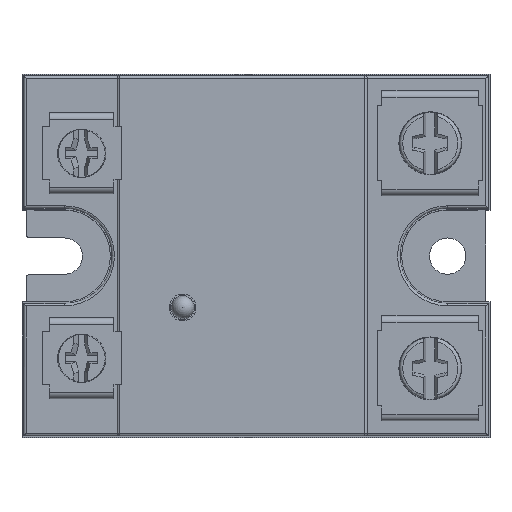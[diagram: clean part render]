
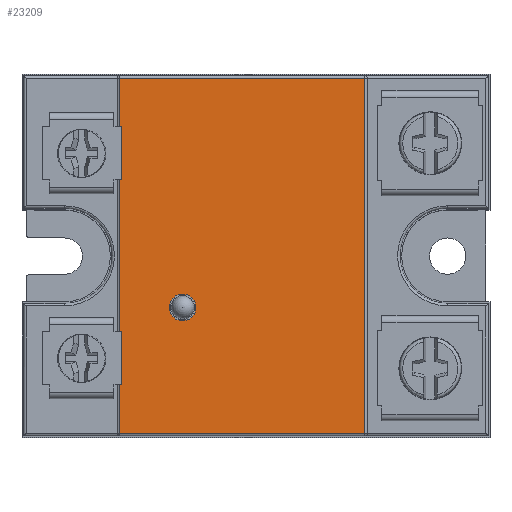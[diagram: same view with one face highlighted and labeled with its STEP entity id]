
A CAD part, top view. The second image highlights one B-rep face of the part: STEP entity #23209.
In plain terms, the highlighted planar face has unit normal (0, 0, 1).
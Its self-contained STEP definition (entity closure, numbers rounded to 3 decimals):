
#22887 = CYLINDRICAL_SURFACE('',#22888,0.3);
#22888 = AXIS2_PLACEMENT_3D('',#22889,#22890,#22891);
#22889 = CARTESIAN_POINT('',(-1.346,-2.955,22.5));
#22890 = DIRECTION('',(1.,0.,0.));
#22891 = DIRECTION('',(0.,0.,1.));
#22968 = CYLINDRICAL_SURFACE('',#22969,1.65);
#22969 = AXIS2_PLACEMENT_3D('',#22970,#22971,#22972);
#22970 = CARTESIAN_POINT('',(13.304,-31.355,20.));
#22971 = DIRECTION('',(0.,0.,1.));
#22972 = DIRECTION('',(-1.,0.,0.));
#22993 = VERTEX_POINT('',#22994);
#22994 = CARTESIAN_POINT('',(11.654,-31.355,22.8));
#23014 = EDGE_CURVE('',#22993,#23015,#23017,.T.);
#23015 = VERTEX_POINT('',#23016);
#23016 = CARTESIAN_POINT('',(14.954,-31.355,22.8));
#23017 = SURFACE_CURVE('',#23018,(#23023,#23030),.PCURVE_S1.);
#23018 = CIRCLE('',#23019,1.65);
#23019 = AXIS2_PLACEMENT_3D('',#23020,#23021,#23022);
#23020 = CARTESIAN_POINT('',(13.304,-31.355,22.8));
#23021 = DIRECTION('',(0.,0.,-1.));
#23022 = DIRECTION('',(1.,0.,0.));
#23023 = PCURVE('',#22968,#23024);
#23024 = DEFINITIONAL_REPRESENTATION('',(#23025),#23029);
#23025 = LINE('',#23026,#23027);
#23026 = CARTESIAN_POINT('',(9.425,2.8));
#23027 = VECTOR('',#23028,1.);
#23028 = DIRECTION('',(-1.,0.));
#23029 = ( GEOMETRIC_REPRESENTATION_CONTEXT(2) 
PARAMETRIC_REPRESENTATION_CONTEXT() REPRESENTATION_CONTEXT('2D SPACE',''
  ) );
#23030 = PCURVE('',#23031,#23036);
#23031 = PLANE('',#23032);
#23032 = AXIS2_PLACEMENT_3D('',#23033,#23034,#23035);
#23033 = CARTESIAN_POINT('',(-1.346,-24.955,22.8));
#23034 = DIRECTION('',(0.,0.,-1.));
#23035 = DIRECTION('',(1.,0.,0.));
#23036 = DEFINITIONAL_REPRESENTATION('',(#23037),#23041);
#23037 = CIRCLE('',#23038,1.65);
#23038 = AXIS2_PLACEMENT_2D('',#23039,#23040);
#23039 = CARTESIAN_POINT('',(14.65,6.4));
#23040 = DIRECTION('',(1.,0.));
#23041 = ( GEOMETRIC_REPRESENTATION_CONTEXT(2) 
PARAMETRIC_REPRESENTATION_CONTEXT() REPRESENTATION_CONTEXT('2D SPACE',''
  ) );
#23043 = EDGE_CURVE('',#23015,#22993,#23044,.T.);
#23044 = SURFACE_CURVE('',#23045,(#23050,#23057),.PCURVE_S1.);
#23045 = CIRCLE('',#23046,1.65);
#23046 = AXIS2_PLACEMENT_3D('',#23047,#23048,#23049);
#23047 = CARTESIAN_POINT('',(13.304,-31.355,22.8));
#23048 = DIRECTION('',(0.,0.,-1.));
#23049 = DIRECTION('',(1.,0.,0.));
#23050 = PCURVE('',#22968,#23051);
#23051 = DEFINITIONAL_REPRESENTATION('',(#23052),#23056);
#23052 = LINE('',#23053,#23054);
#23053 = CARTESIAN_POINT('',(3.142,2.8));
#23054 = VECTOR('',#23055,1.);
#23055 = DIRECTION('',(-1.,0.));
#23056 = ( GEOMETRIC_REPRESENTATION_CONTEXT(2) 
PARAMETRIC_REPRESENTATION_CONTEXT() REPRESENTATION_CONTEXT('2D SPACE',''
  ) );
#23057 = PCURVE('',#23031,#23058);
#23058 = DEFINITIONAL_REPRESENTATION('',(#23059),#23063);
#23059 = CIRCLE('',#23060,1.65);
#23060 = AXIS2_PLACEMENT_2D('',#23061,#23062);
#23061 = CARTESIAN_POINT('',(14.65,6.4));
#23062 = DIRECTION('',(1.,0.));
#23063 = ( GEOMETRIC_REPRESENTATION_CONTEXT(2) 
PARAMETRIC_REPRESENTATION_CONTEXT() REPRESENTATION_CONTEXT('2D SPACE',''
  ) );
#23142 = CYLINDRICAL_SURFACE('',#23143,0.3);
#23143 = AXIS2_PLACEMENT_3D('',#23144,#23145,#23146);
#23144 = CARTESIAN_POINT('',(-1.346,-46.955,22.5));
#23145 = DIRECTION('',(-1.,0.,0.));
#23146 = DIRECTION('',(0.,0.,-1.));
#23209 = ADVANCED_FACE('',(#23210,#23214),#23031,.F.);
#23210 = FACE_BOUND('',#23211,.T.);
#23211 = EDGE_LOOP('',(#23212,#23213));
#23212 = ORIENTED_EDGE('',*,*,#23043,.T.);
#23213 = ORIENTED_EDGE('',*,*,#23014,.T.);
#23214 = FACE_BOUND('',#23215,.T.);
#23215 = EDGE_LOOP('',(#23216,#23241,#23269,#23292));
#23216 = ORIENTED_EDGE('',*,*,#23217,.T.);
#23217 = EDGE_CURVE('',#23218,#23220,#23222,.T.);
#23218 = VERTEX_POINT('',#23219);
#23219 = CARTESIAN_POINT('',(5.504,-46.955,22.8));
#23220 = VERTEX_POINT('',#23221);
#23221 = CARTESIAN_POINT('',(35.904,-46.955,22.8));
#23222 = SURFACE_CURVE('',#23223,(#23227,#23234),.PCURVE_S1.);
#23223 = LINE('',#23224,#23225);
#23224 = CARTESIAN_POINT('',(36.204,-46.955,22.8));
#23225 = VECTOR('',#23226,1.);
#23226 = DIRECTION('',(1.,0.,0.));
#23227 = PCURVE('',#23031,#23228);
#23228 = DEFINITIONAL_REPRESENTATION('',(#23229),#23233);
#23229 = LINE('',#23230,#23231);
#23230 = CARTESIAN_POINT('',(37.55,22.));
#23231 = VECTOR('',#23232,1.);
#23232 = DIRECTION('',(1.,0.));
#23233 = ( GEOMETRIC_REPRESENTATION_CONTEXT(2) 
PARAMETRIC_REPRESENTATION_CONTEXT() REPRESENTATION_CONTEXT('2D SPACE',''
  ) );
#23234 = PCURVE('',#23142,#23235);
#23235 = DEFINITIONAL_REPRESENTATION('',(#23236),#23240);
#23236 = LINE('',#23237,#23238);
#23237 = CARTESIAN_POINT('',(3.142,-37.55));
#23238 = VECTOR('',#23239,1.);
#23239 = DIRECTION('',(0.,-1.));
#23240 = ( GEOMETRIC_REPRESENTATION_CONTEXT(2) 
PARAMETRIC_REPRESENTATION_CONTEXT() REPRESENTATION_CONTEXT('2D SPACE',''
  ) );
#23241 = ORIENTED_EDGE('',*,*,#23242,.T.);
#23242 = EDGE_CURVE('',#23220,#23243,#23245,.T.);
#23243 = VERTEX_POINT('',#23244);
#23244 = CARTESIAN_POINT('',(35.904,-2.955,22.8));
#23245 = SURFACE_CURVE('',#23246,(#23250,#23257),.PCURVE_S1.);
#23246 = LINE('',#23247,#23248);
#23247 = CARTESIAN_POINT('',(35.904,-24.955,22.8));
#23248 = VECTOR('',#23249,1.);
#23249 = DIRECTION('',(0.,1.,0.));
#23250 = PCURVE('',#23031,#23251);
#23251 = DEFINITIONAL_REPRESENTATION('',(#23252),#23256);
#23252 = LINE('',#23253,#23254);
#23253 = CARTESIAN_POINT('',(37.25,0.));
#23254 = VECTOR('',#23255,1.);
#23255 = DIRECTION('',(0.,-1.));
#23256 = ( GEOMETRIC_REPRESENTATION_CONTEXT(2) 
PARAMETRIC_REPRESENTATION_CONTEXT() REPRESENTATION_CONTEXT('2D SPACE',''
  ) );
#23257 = PCURVE('',#23258,#23263);
#23258 = CYLINDRICAL_SURFACE('',#23259,0.3);
#23259 = AXIS2_PLACEMENT_3D('',#23260,#23261,#23262);
#23260 = CARTESIAN_POINT('',(35.904,-2.655,22.5));
#23261 = DIRECTION('',(0.,-1.,0.));
#23262 = DIRECTION('',(0.,0.,-1.));
#23263 = DEFINITIONAL_REPRESENTATION('',(#23264),#23268);
#23264 = LINE('',#23265,#23266);
#23265 = CARTESIAN_POINT('',(3.142,22.3));
#23266 = VECTOR('',#23267,1.);
#23267 = DIRECTION('',(0.,-1.));
#23268 = ( GEOMETRIC_REPRESENTATION_CONTEXT(2) 
PARAMETRIC_REPRESENTATION_CONTEXT() REPRESENTATION_CONTEXT('2D SPACE',''
  ) );
#23269 = ORIENTED_EDGE('',*,*,#23270,.T.);
#23270 = EDGE_CURVE('',#23243,#23271,#23273,.T.);
#23271 = VERTEX_POINT('',#23272);
#23272 = CARTESIAN_POINT('',(5.504,-2.955,22.8));
#23273 = SURFACE_CURVE('',#23274,(#23278,#23285),.PCURVE_S1.);
#23274 = LINE('',#23275,#23276);
#23275 = CARTESIAN_POINT('',(5.204,-2.955,22.8));
#23276 = VECTOR('',#23277,1.);
#23277 = DIRECTION('',(-1.,0.,0.));
#23278 = PCURVE('',#23031,#23279);
#23279 = DEFINITIONAL_REPRESENTATION('',(#23280),#23284);
#23280 = LINE('',#23281,#23282);
#23281 = CARTESIAN_POINT('',(6.55,-22.));
#23282 = VECTOR('',#23283,1.);
#23283 = DIRECTION('',(-1.,0.));
#23284 = ( GEOMETRIC_REPRESENTATION_CONTEXT(2) 
PARAMETRIC_REPRESENTATION_CONTEXT() REPRESENTATION_CONTEXT('2D SPACE',''
  ) );
#23285 = PCURVE('',#22887,#23286);
#23286 = DEFINITIONAL_REPRESENTATION('',(#23287),#23291);
#23287 = LINE('',#23288,#23289);
#23288 = CARTESIAN_POINT('',(6.283,6.55));
#23289 = VECTOR('',#23290,1.);
#23290 = DIRECTION('',(0.,-1.));
#23291 = ( GEOMETRIC_REPRESENTATION_CONTEXT(2) 
PARAMETRIC_REPRESENTATION_CONTEXT() REPRESENTATION_CONTEXT('2D SPACE',''
  ) );
#23292 = ORIENTED_EDGE('',*,*,#23293,.T.);
#23293 = EDGE_CURVE('',#23271,#23218,#23294,.T.);
#23294 = SURFACE_CURVE('',#23295,(#23299,#23306),.PCURVE_S1.);
#23295 = LINE('',#23296,#23297);
#23296 = CARTESIAN_POINT('',(5.504,-24.955,22.8));
#23297 = VECTOR('',#23298,1.);
#23298 = DIRECTION('',(0.,-1.,0.));
#23299 = PCURVE('',#23031,#23300);
#23300 = DEFINITIONAL_REPRESENTATION('',(#23301),#23305);
#23301 = LINE('',#23302,#23303);
#23302 = CARTESIAN_POINT('',(6.85,0.));
#23303 = VECTOR('',#23304,1.);
#23304 = DIRECTION('',(0.,1.));
#23305 = ( GEOMETRIC_REPRESENTATION_CONTEXT(2) 
PARAMETRIC_REPRESENTATION_CONTEXT() REPRESENTATION_CONTEXT('2D SPACE',''
  ) );
#23306 = PCURVE('',#23307,#23312);
#23307 = CYLINDRICAL_SURFACE('',#23308,0.3);
#23308 = AXIS2_PLACEMENT_3D('',#23309,#23310,#23311);
#23309 = CARTESIAN_POINT('',(5.504,-47.255,22.5));
#23310 = DIRECTION('',(0.,1.,0.));
#23311 = DIRECTION('',(1.,0.,0.));
#23312 = DEFINITIONAL_REPRESENTATION('',(#23313),#23317);
#23313 = LINE('',#23314,#23315);
#23314 = CARTESIAN_POINT('',(4.712,22.3));
#23315 = VECTOR('',#23316,1.);
#23316 = DIRECTION('',(0.,-1.));
#23317 = ( GEOMETRIC_REPRESENTATION_CONTEXT(2) 
PARAMETRIC_REPRESENTATION_CONTEXT() REPRESENTATION_CONTEXT('2D SPACE',''
  ) );
